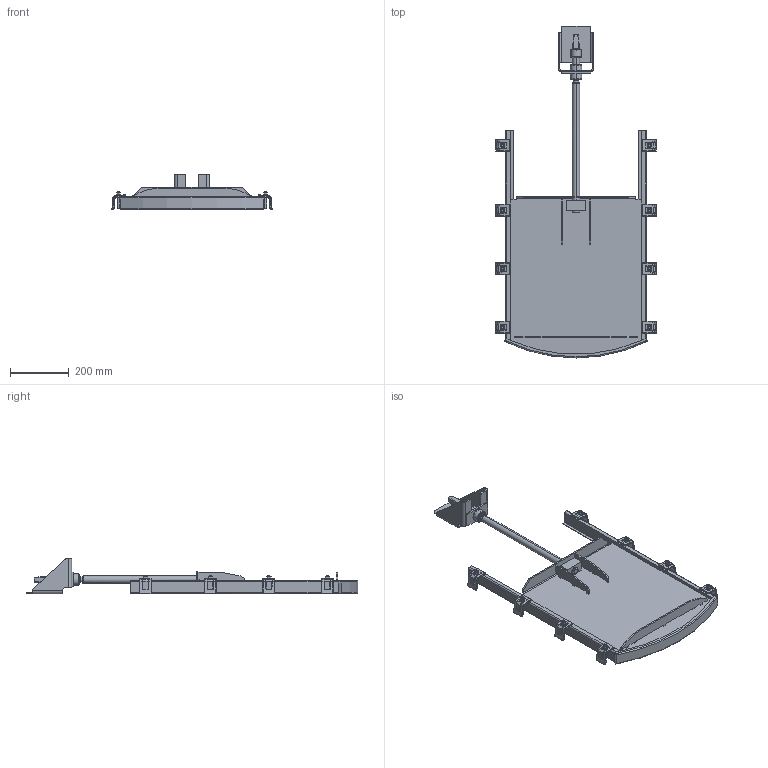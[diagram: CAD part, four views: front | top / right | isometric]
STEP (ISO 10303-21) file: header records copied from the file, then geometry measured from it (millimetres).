
FILE_DESCRIPTION (( 'STEP AP214' ), '1' );
FILE_NAME ('LW 400 gerad betoniert.STEP', '2022-05-19T05:51:01', ( '' ), ( '' ), 'SwSTEP 2.0', 'SolidWorks 2021', '' );
FILE_SCHEMA (( 'AUTOMOTIVE_DESIGN' ));
Length unit declared in the file: millimetre
Products named in the file (1): LW 400 gerad betoniert
Bounding box: 549.57 x 1135 x 121 mm (x, y, z)
Volume: 3781469 mm3; surface area: 1111841.2 mm2
Topology: 1 solids, 1 shells, 1319 faces, 3114 edges, 1748 vertices
Faces by surface type: cylinder 523, plane 376, cone 118, sphere 112, torus 104, bspline 86
Entity records: 55257 total; most frequent: CARTESIAN_POINT 11600, DIRECTION 6320, ORIENTED_EDGE 5996, EDGE_CURVE 2998, AXIS2_PLACEMENT_3D 2512, VERTEX_POINT 1732, EDGE_LOOP 1404, UNCERTAINTY_MEASURE_WITH_UNIT 1322
